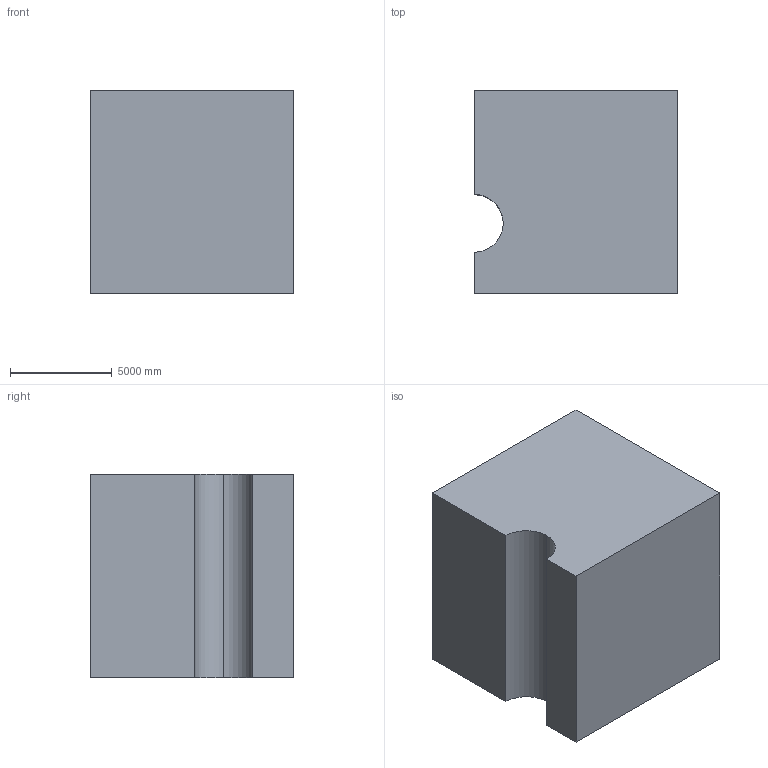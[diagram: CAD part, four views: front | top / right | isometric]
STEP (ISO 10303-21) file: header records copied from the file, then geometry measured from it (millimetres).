
FILE_DESCRIPTION (( 'STEP AP203' ), '1' );
FILE_NAME ('1169.STEP', '2022-08-18T13:01:55', ( 'user' ), ( '' ), 'SwSTEP 2.0', 'SolidWorks 2021', '' );
FILE_SCHEMA (( 'CONFIG_CONTROL_DESIGN' ));
Length unit declared in the file: centimetre
Products named in the file (1): 1169
Bounding box: 10000 x 10000 x 10000 mm (x, y, z)
Volume: 901206041617.8 mm3; surface area: 684377090.8 mm2
Topology: 1 solids, 1 shells, 14 faces, 33 edges, 22 vertices
Faces by surface type: plane 12, cylinder 2
Entity records: 478 total; most frequent: CARTESIAN_POINT 70, DIRECTION 67, ORIENTED_EDGE 66, EDGE_CURVE 33, VECTOR 29, LINE 29, VERTEX_POINT 22, AXIS2_PLACEMENT_3D 19
